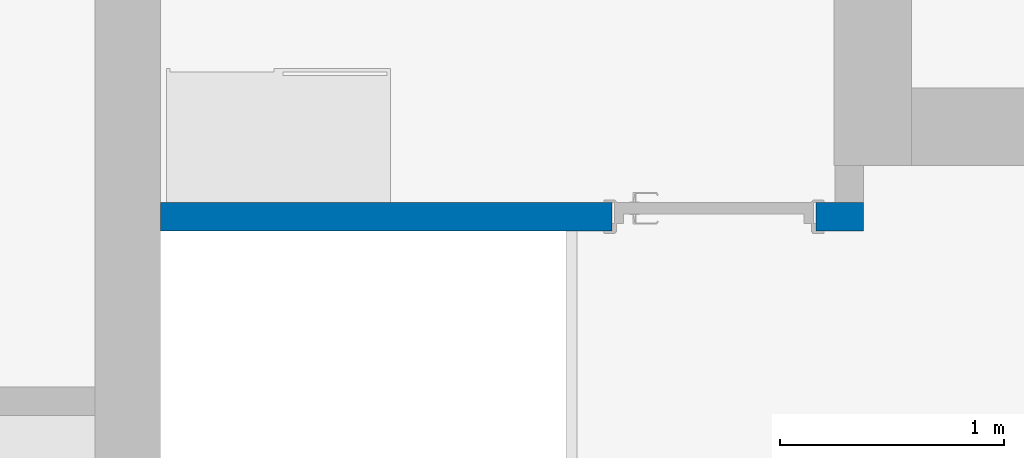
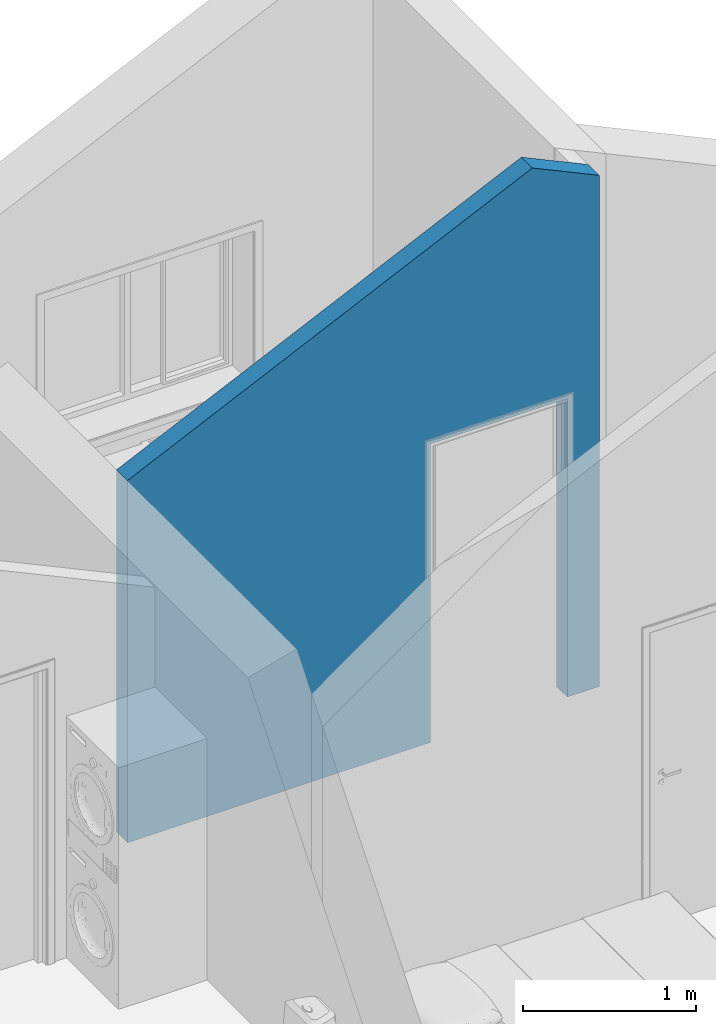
# One storey, part 18 of 44: 1 wall, 1 opening.
"""IFC2X3 building model written with IfcOpenShell, lengths in millimetres."""

from ifc_helpers import new_model, entity, si_unit, converted_unit, direction, frame, frame_2d, origin, place, context, subcontext, project, spatial, polyline, rectangle, extrude, clip, bounded_halfspace, material, layer, layer_set, layer_usage, type_object, element, save


model = new_model("IFC2X3")

# Units and contexts
model_context = context("Model", 3, precision=0.01, world=origin(), true_north=direction((0.0, 1.0)))
body_context = subcontext(model_context, "Body", "Model", "MODEL_VIEW")
ifc_project = project(units=[si_unit("LENGTHUNIT", "METRE", prefix="MILLI"), si_unit("AREAUNIT", "SQUARE_METRE"), si_unit("VOLUMEUNIT", "CUBIC_METRE"), converted_unit("PLANEANGLEUNIT", "DEGREE", entity("IfcPlaneAngleMeasure", 0.017453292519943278), si_unit("PLANEANGLEUNIT", "RADIAN"), dimensions=[0, 0, 0, 0, 0, 0, 0])], contexts=[model_context])

# Site, building, storey
site_placement = place(None, origin())
site = spatial("IfcSite", under=ifc_project, at=site_placement, Name="Default", CompositionType="ELEMENT")
building_placement = place(site_placement, origin())
building = spatial("IfcBuilding", under=site, at=building_placement, CompositionType="ELEMENT")
storey_placement = place(building_placement, frame((0.0, 0.0, 2681.0)))
storey = spatial("IfcBuildingStorey", under=building, at=storey_placement, Name="Et. 2", CompositionType="ELEMENT", Elevation=2681.0)

# Wall, opening
ifc_material_1 = material(Name="Vegg - Gips - Innvendig - Hvit")
ifc_layer_1 = layer(ifc_material_1, 13.000000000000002)
ifc_material_2 = material(Name="Vegg - Stender - Stål - Isolert")
ifc_layer_2 = layer(ifc_material_2, 100.0)
ifc_layer_3 = layer(ifc_material_1, 13.000000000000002)
ifc_layer_set = layer_set([ifc_layer_1, ifc_layer_2, ifc_layer_3], Name="Basic Wall:24-GSIG-13_100_13")
ifc_layer_usage = layer_usage(ifc_layer_set, "AXIS2", "NEGATIVE", 63.00000000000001)
wall_type = type_object("IfcWallType", Name="Basic Wall:24-GSIG-13_100_13", PredefinedType="STANDARD", material=ifc_layer_set)
wall_placement = place(storey_placement, frame((16324.009586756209, 15419.180957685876, 0.0)))
wall = element("IfcWallStandardCase", 1, at=wall_placement, inside=storey, type_object=wall_type, material=ifc_layer_usage, Name="Basic Wall:24-GSIG-13_100_13", context=body_context, shape_type="Clipping", body=[
    clip(clip(extrude(rectangle(XDim=3139.999999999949, YDim=126.00000000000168, at=frame_2d((1569.9999999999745, 6.394884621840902e-14), x_axis=(-1.0, 0.0))), origin(), (0.0, 0.0, 1.0), 3805.2181278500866), bounded_halfspace(frame((0.0, 63.0, 2548.7521429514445), z_axis=(-0.42261826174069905, 0.0, 0.9063077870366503), x_axis=(0.0, -1.0, 0.0)), False, frame((0.0, 63.0, 2548.7521429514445)), polyline([(0.0, 0.0), (0.0, -126.0), (2694.4999999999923, -126.0), (2694.499999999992, 0.0), (0.0, 0.0)]))), bounded_halfspace(frame((3140.0, -63.0, 3597.4780661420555), z_axis=(0.42261826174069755, 0.0, 0.9063077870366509), x_axis=(0.0, 1.0, 0.0)), False, frame((3140.0, -63.0, 3597.4780661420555)), polyline([(0.0, 0.0), (0.0, 126.0), (-126.0, 126.0), (-445.4999999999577, 126.0), (-445.49999999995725, 0.0), (0.0, 0.0)]))),
])
opening_placement = place(wall_placement, frame((2017.0, -63.0, 0.0)))
element("IfcOpeningElement", 2, at=opening_placement, cuts=wall, Name="ID Hel:9x21M:1", ObjectType="Opening", context=body_context, shape_type="SweptSolid", body=[
    extrude(rectangle(XDim=910.0000000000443, YDim=2100.0000000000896, at=frame_2d((1050.0000000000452, 455.00000000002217), x_axis=(0.0, 1.0))), frame((0.0, 0.0, 0.0), z_axis=(0.0, 1.0, 0.0), x_axis=(0.0, 0.0, 1.0)), (0.0, 0.0, 1.0), 126.00000000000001),
])

save(model, "model.ifc")
